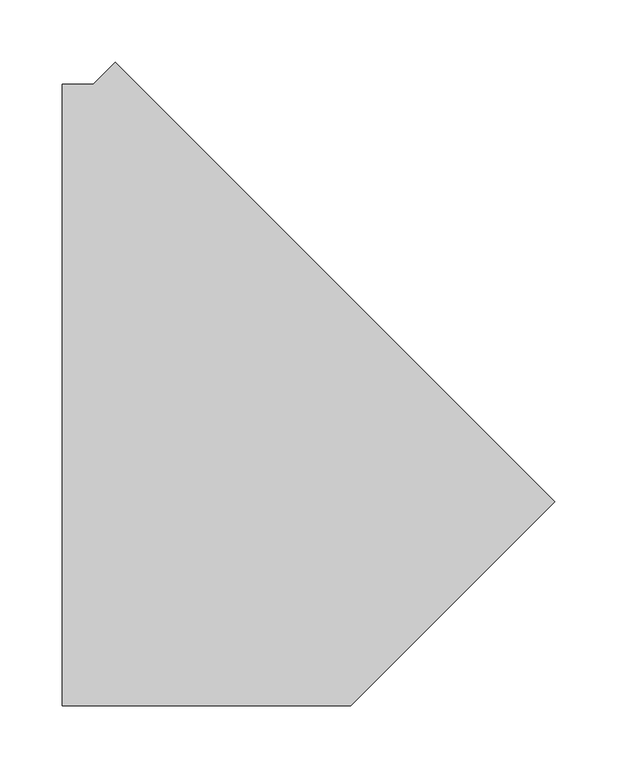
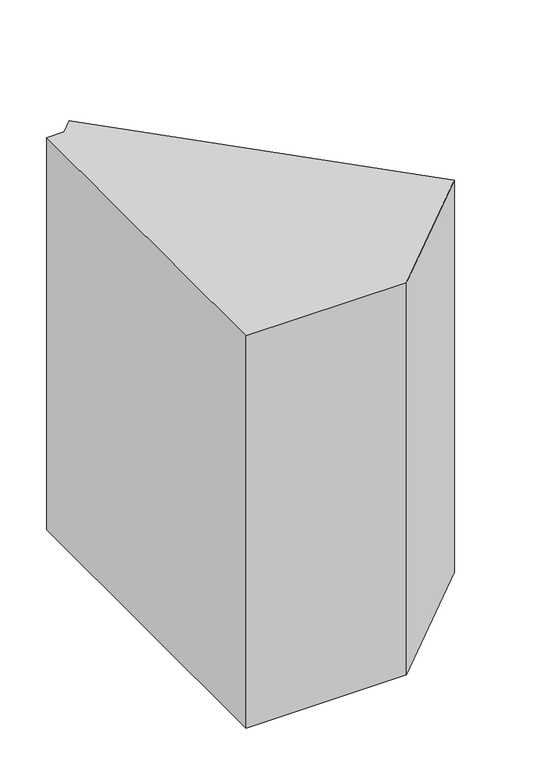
"""IFC4 building model written with IfcOpenShell, lengths in millimetres: duct fitting geometry, 2017_Codo_Climaver_Codo-Rectangular-Biselado : Codo_Rectangular_Biselado_Climaver."""

from ifc_helpers import new_model, si_unit, frame, origin, place, context, project, spatial, polyline, outline, extrude, source, transform, mapped, element, save


def duct_fitting_7456bdfa(model_context):
    return source(origin(), model_context, "Body", "SweptSolid", [
        extrude(outline(polyline([(-128.5533906, -250.0), (-128.5533906, 250.0), (-103.5533906, 250.0), (-85.8757211, 267.6776695), (267.6776695, -85.8757211), (103.5533906, -250.0), (-128.5533906, -250.0)])), frame((0.0, 0.0, -300.0), z_axis=(0.0, 0.0, 1.0), x_axis=(1.0, 0.0, 0.0)), (0.0, 0.0, 1.0), 600.0),
    ])


if __name__ == "__main__":
    model = new_model("IFC4")
    model_context = context("Model", 3, world=origin())
    ifc_project = project(units=[si_unit("LENGTHUNIT", "METRE", prefix="MILLI")], contexts=[model_context])
    site = spatial("IfcSite", under=ifc_project)
    building = spatial("IfcBuilding", under=site)
    placement = place(None, origin())
    duct_fitting_shape = duct_fitting_7456bdfa(model_context)
    element("IfcDuctFitting", 1, ObjectType="2017_Codo_Climaver_Codo-Rectangular-Biselado : Codo_Rectangular_Biselado_Climaver", at=placement, inside=building, context=model_context, shape_type="MappedRepresentation", body=[
        mapped(duct_fitting_shape, transform((0.0, 0.0, 0.0), x_axis=(1.0, 0.0, 0.0), y_axis=(0.0, 1.0, 0.0), z_axis=(0.0, 0.0, 1.0))),
    ])
    save(model, "model.ifc")
